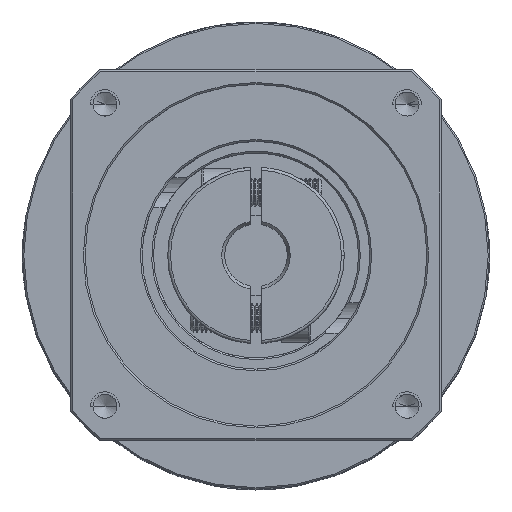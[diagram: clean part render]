
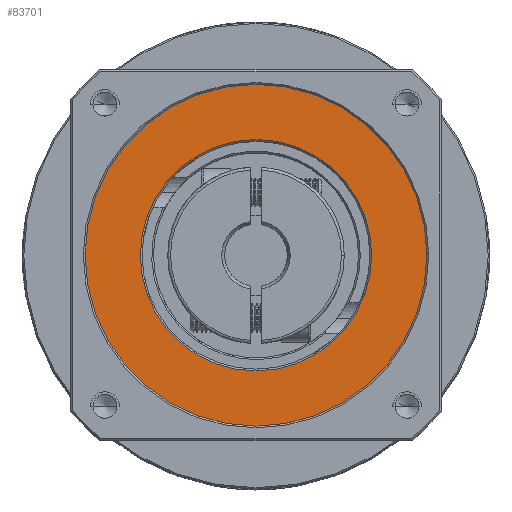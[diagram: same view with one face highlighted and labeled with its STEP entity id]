
A CAD part, top view. The second image highlights one B-rep face of the part: STEP entity #83701.
In plain terms, the highlighted planar face has unit normal (0, 0, 1).
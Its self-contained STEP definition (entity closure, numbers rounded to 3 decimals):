
#3818 = CARTESIAN_POINT ( 'NONE',  ( -95.841, 24.936, 5.575 ) ) ;
#5989 = CARTESIAN_POINT ( 'NONE',  ( -65.841, 24.936, 5.575 ) ) ;
#9483 = DIRECTION ( 'NONE',  ( 1., 0., 0. ) ) ;
#9572 = CIRCLE ( 'NONE', #41216, 30. ) ;
#9629 = EDGE_CURVE ( 'NONE', #124428, #37026, #9572, .T. ) ;
#10912 = CARTESIAN_POINT ( 'NONE',  ( -65.841, 24.936, 5.575 ) ) ;
#11282 = CARTESIAN_POINT ( 'NONE',  ( -65.841, 24.936, 5.575 ) ) ;
#11960 = EDGE_CURVE ( 'NONE', #37026, #124428, #128572, .T. ) ;
#13609 = DIRECTION ( 'NONE',  ( 0., 0., 1. ) ) ;
#14256 = AXIS2_PLACEMENT_3D ( 'NONE', #74111, #13609, #84326 ) ;
#15437 = EDGE_CURVE ( 'NONE', #21787, #82317, #30008, .T. ) ;
#16157 = DIRECTION ( 'NONE',  ( 1., 0., 0. ) ) ;
#21083 = DIRECTION ( 'NONE',  ( 1., 0., 0. ) ) ;
#21440 = DIRECTION ( 'NONE',  ( 1., 0., 0. ) ) ;
#21746 = FACE_BOUND ( 'NONE', #75406, .T. ) ;
#21787 = VERTEX_POINT ( 'NONE', #120634 ) ;
#26718 = ORIENTED_EDGE ( 'NONE', *, *, #11960, .T. ) ;
#30008 = CIRCLE ( 'NONE', #127300, 20.3 ) ;
#33519 = PLANE ( 'NONE',  #14256 ) ;
#37026 = VERTEX_POINT ( 'NONE', #47044 ) ;
#41216 = AXIS2_PLACEMENT_3D ( 'NONE', #130453, #69969, #9483 ) ;
#47044 = CARTESIAN_POINT ( 'NONE',  ( -35.841, 24.936, 5.575 ) ) ;
#69969 = DIRECTION ( 'NONE',  ( 0., 0., 1. ) ) ;
#72226 = AXIS2_PLACEMENT_3D ( 'NONE', #5989, #76686, #16157 ) ;
#72316 = FACE_OUTER_BOUND ( 'NONE', #119579, .T. ) ;
#74111 = CARTESIAN_POINT ( 'NONE',  ( -65.841, 24.936, 5.575 ) ) ;
#75406 = EDGE_LOOP ( 'NONE', ( #80634, #78944 ) ) ;
#76686 = DIRECTION ( 'NONE',  ( 0., 0., -1. ) ) ;
#78662 = CARTESIAN_POINT ( 'NONE',  ( -45.541, 24.936, 5.575 ) ) ;
#78944 = ORIENTED_EDGE ( 'NONE', *, *, #15437, .T. ) ;
#80634 = ORIENTED_EDGE ( 'NONE', *, *, #113201, .T. ) ;
#81643 = DIRECTION ( 'NONE',  ( 0., 0., 1. ) ) ;
#82017 = DIRECTION ( 'NONE',  ( 0., 0., -1. ) ) ;
#82317 = VERTEX_POINT ( 'NONE', #78662 ) ;
#82864 = CIRCLE ( 'NONE', #72226, 20.3 ) ;
#83701 = ADVANCED_FACE ( 'NONE', ( #21746, #72316 ), #33519, .T. ) ;
#84326 = DIRECTION ( 'NONE',  ( 1., 0., 0. ) ) ;
#102597 = ORIENTED_EDGE ( 'NONE', *, *, #9629, .T. ) ;
#113201 = EDGE_CURVE ( 'NONE', #82317, #21787, #82864, .T. ) ;
#116953 = AXIS2_PLACEMENT_3D ( 'NONE', #10912, #81643, #21083 ) ;
#119579 = EDGE_LOOP ( 'NONE', ( #26718, #102597 ) ) ;
#120634 = CARTESIAN_POINT ( 'NONE',  ( -86.141, 24.936, 5.575 ) ) ;
#124428 = VERTEX_POINT ( 'NONE', #3818 ) ;
#127300 = AXIS2_PLACEMENT_3D ( 'NONE', #11282, #82017, #21440 ) ;
#128572 = CIRCLE ( 'NONE', #116953, 30. ) ;
#130453 = CARTESIAN_POINT ( 'NONE',  ( -65.841, 24.936, 5.575 ) ) ;
